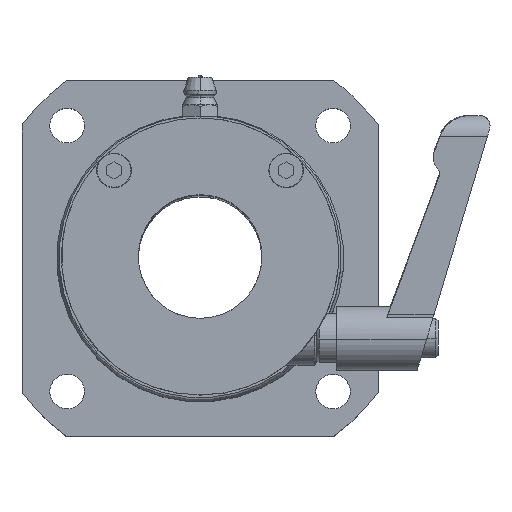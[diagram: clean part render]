
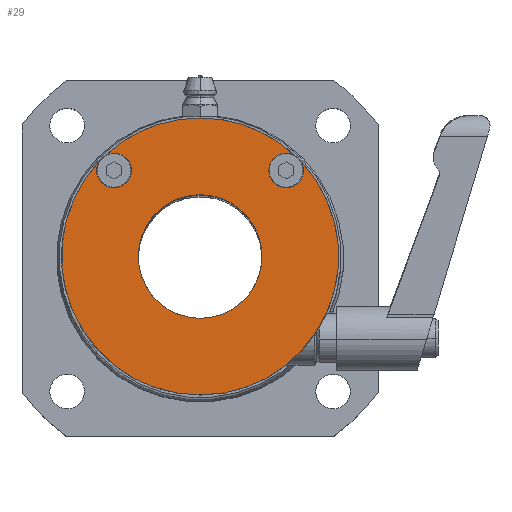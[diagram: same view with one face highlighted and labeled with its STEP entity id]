
A CAD part, top view. The second image highlights one B-rep face of the part: STEP entity #29.
In plain terms, the highlighted planar face has unit normal (0, 0, 1).
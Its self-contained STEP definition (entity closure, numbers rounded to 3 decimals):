
#29 = ADVANCED_FACE ( 'NONE', ( #5604, #9099 ), #10101, .T. ) ;
#39 = ORIENTED_EDGE ( 'NONE', *, *, #280, .F. ) ;
#91 = DIRECTION ( 'NONE',  ( 0., -1., 0. ) ) ;
#92 = CARTESIAN_POINT ( 'NONE',  ( -6.779, -0.556, 63.5 ) ) ;
#95 = VERTEX_POINT ( 'NONE', #5097 ) ;
#137 = CARTESIAN_POINT ( 'NONE',  ( -6.779, 11.944, 63.5 ) ) ;
#195 = CARTESIAN_POINT ( 'NONE',  ( -6.779, -0.556, 63.5 ) ) ;
#199 = CIRCLE ( 'NONE', #6256, 3.5 ) ;
#266 = DIRECTION ( 'NONE',  ( 0., -1., 0. ) ) ;
#280 = EDGE_CURVE ( 'NONE', #10152, #700, #10494, .T. ) ;
#329 = DIRECTION ( 'NONE',  ( 0., 0., 1. ) ) ;
#376 = CARTESIAN_POINT ( 'NONE',  ( -6.779, -28.556, 63.5 ) ) ;
#700 = VERTEX_POINT ( 'NONE', #137 ) ;
#801 = CARTESIAN_POINT ( 'NONE',  ( 10.621, 16.844, 63.5 ) ) ;
#953 = AXIS2_PLACEMENT_3D ( 'NONE', #92, #7106, #10693 ) ;
#1113 = EDGE_CURVE ( 'NONE', #700, #10152, #8620, .T. ) ;
#1164 = DIRECTION ( 'NONE',  ( 1., 0., 0. ) ) ;
#1241 = VERTEX_POINT ( 'NONE', #10385 ) ;
#1272 = ORIENTED_EDGE ( 'NONE', *, *, #10520, .F. ) ;
#1391 = DIRECTION ( 'NONE',  ( 0., -1., 0. ) ) ;
#1711 = CARTESIAN_POINT ( 'NONE',  ( -6.779, -0.556, 63.5 ) ) ;
#1732 = ORIENTED_EDGE ( 'NONE', *, *, #2513, .T. ) ;
#1781 = DIRECTION ( 'NONE',  ( 0., 0., 1. ) ) ;
#1859 = CIRCLE ( 'NONE', #953, 28. ) ;
#1927 = ORIENTED_EDGE ( 'NONE', *, *, #7575, .T. ) ;
#2103 = VERTEX_POINT ( 'NONE', #2720 ) ;
#2351 = CIRCLE ( 'NONE', #8739, 3.5 ) ;
#2418 = CIRCLE ( 'NONE', #4799, 3.5 ) ;
#2513 = EDGE_CURVE ( 'NONE', #1241, #8534, #11184, .T. ) ;
#2591 = EDGE_CURVE ( 'NONE', #2103, #3548, #3634, .T. ) ;
#2614 = DIRECTION ( 'NONE',  ( 1., 0., 0. ) ) ;
#2720 = CARTESIAN_POINT ( 'NONE',  ( 14.121, 16.844, 63.5 ) ) ;
#2829 = CARTESIAN_POINT ( 'NONE',  ( -24.179, 16.844, 63.5 ) ) ;
#2872 = CARTESIAN_POINT ( 'NONE',  ( -6.779, -0.556, 63.5 ) ) ;
#2899 = CARTESIAN_POINT ( 'NONE',  ( 7.121, 16.844, 63.5 ) ) ;
#2935 = CARTESIAN_POINT ( 'NONE',  ( -25.918, 19.881, 63.5 ) ) ;
#2979 = DIRECTION ( 'NONE',  ( 0., 0., 1. ) ) ;
#2990 = VERTEX_POINT ( 'NONE', #8247 ) ;
#3110 = AXIS2_PLACEMENT_3D ( 'NONE', #195, #5491, #5276 ) ;
#3324 = EDGE_CURVE ( 'NONE', #1241, #3469, #5305, .T. ) ;
#3437 = ORIENTED_EDGE ( 'NONE', *, *, #1113, .F. ) ;
#3469 = VERTEX_POINT ( 'NONE', #2899 ) ;
#3548 = VERTEX_POINT ( 'NONE', #10578 ) ;
#3634 = CIRCLE ( 'NONE', #10078, 3.5 ) ;
#3764 = CARTESIAN_POINT ( 'NONE',  ( 10.621, 16.844, 63.5 ) ) ;
#3828 = DIRECTION ( 'NONE',  ( 1., 0., 0. ) ) ;
#3864 = ORIENTED_EDGE ( 'NONE', *, *, #4895, .T. ) ;
#3921 = CARTESIAN_POINT ( 'NONE',  ( 10.621, 16.844, 63.5 ) ) ;
#3997 = AXIS2_PLACEMENT_3D ( 'NONE', #7667, #11207, #9239 ) ;
#4288 = ORIENTED_EDGE ( 'NONE', *, *, #5055, .T. ) ;
#4417 = DIRECTION ( 'NONE',  ( 0., 0., 1. ) ) ;
#4799 = AXIS2_PLACEMENT_3D ( 'NONE', #3921, #7438, #1164 ) ;
#4838 = ORIENTED_EDGE ( 'NONE', *, *, #3324, .F. ) ;
#4895 = EDGE_CURVE ( 'NONE', #8534, #7599, #1859, .T. ) ;
#4939 = DIRECTION ( 'NONE',  ( 0., 0., 1. ) ) ;
#4983 = EDGE_CURVE ( 'NONE', #3469, #2103, #2418, .T. ) ;
#5046 = DIRECTION ( 'NONE',  ( 0., 0., 1. ) ) ;
#5055 = EDGE_CURVE ( 'NONE', #6311, #3548, #6978, .T. ) ;
#5097 = CARTESIAN_POINT ( 'NONE',  ( -27.216, 18.583, 63.5 ) ) ;
#5276 = DIRECTION ( 'NONE',  ( 0., -1., 0. ) ) ;
#5305 = CIRCLE ( 'NONE', #9126, 3.5 ) ;
#5408 = DIRECTION ( 'NONE',  ( 0., 0., 1. ) ) ;
#5491 = DIRECTION ( 'NONE',  ( 0., 0., 1. ) ) ;
#5604 = FACE_OUTER_BOUND ( 'NONE', #7347, .T. ) ;
#5832 = DIRECTION ( 'NONE',  ( 1., 0., 0. ) ) ;
#6018 = ORIENTED_EDGE ( 'NONE', *, *, #8310, .F. ) ;
#6256 = AXIS2_PLACEMENT_3D ( 'NONE', #10473, #1781, #2614 ) ;
#6311 = VERTEX_POINT ( 'NONE', #376 ) ;
#6683 = DIRECTION ( 'NONE',  ( 0., -1., 0. ) ) ;
#6805 = AXIS2_PLACEMENT_3D ( 'NONE', #9554, #10413, #91 ) ;
#6815 = CARTESIAN_POINT ( 'NONE',  ( -6.779, -0.556, 63.5 ) ) ;
#6978 = CIRCLE ( 'NONE', #9558, 28. ) ;
#7106 = DIRECTION ( 'NONE',  ( 0., 0., 1. ) ) ;
#7214 = CARTESIAN_POINT ( 'NONE',  ( -6.779, -0.556, 63.5 ) ) ;
#7347 = EDGE_LOOP ( 'NONE', ( #1927, #4288, #8140, #10120, #4838, #1732, #3864, #8138, #1272, #6018 ) ) ;
#7438 = DIRECTION ( 'NONE',  ( 0., 0., 1. ) ) ;
#7575 = EDGE_CURVE ( 'NONE', #95, #6311, #10866, .T. ) ;
#7599 = VERTEX_POINT ( 'NONE', #2935 ) ;
#7667 = CARTESIAN_POINT ( 'NONE',  ( -24.179, 16.844, 63.5 ) ) ;
#7883 = AXIS2_PLACEMENT_3D ( 'NONE', #6815, #4939, #6683 ) ;
#8138 = ORIENTED_EDGE ( 'NONE', *, *, #10002, .F. ) ;
#8140 = ORIENTED_EDGE ( 'NONE', *, *, #2591, .F. ) ;
#8142 = DIRECTION ( 'NONE',  ( 1., 0., 0. ) ) ;
#8247 = CARTESIAN_POINT ( 'NONE',  ( -27.679, 16.844, 63.5 ) ) ;
#8253 = EDGE_LOOP ( 'NONE', ( #3437, #39 ) ) ;
#8310 = EDGE_CURVE ( 'NONE', #95, #2990, #199, .T. ) ;
#8534 = VERTEX_POINT ( 'NONE', #8865 ) ;
#8620 = CIRCLE ( 'NONE', #7883, 12.5 ) ;
#8739 = AXIS2_PLACEMENT_3D ( 'NONE', #2829, #5408, #8142 ) ;
#8865 = CARTESIAN_POINT ( 'NONE',  ( -6.779, 27.444, 63.5 ) ) ;
#9099 = FACE_BOUND ( 'NONE', #8253, .T. ) ;
#9126 = AXIS2_PLACEMENT_3D ( 'NONE', #801, #5046, #5832 ) ;
#9239 = DIRECTION ( 'NONE',  ( 1., 0., 0. ) ) ;
#9409 = DIRECTION ( 'NONE',  ( 0., -1., 0. ) ) ;
#9482 = CARTESIAN_POINT ( 'NONE',  ( -20.679, 16.844, 63.5 ) ) ;
#9554 = CARTESIAN_POINT ( 'NONE',  ( -6.779, -0.556, 63.5 ) ) ;
#9558 = AXIS2_PLACEMENT_3D ( 'NONE', #2872, #9994, #1391 ) ;
#9913 = CARTESIAN_POINT ( 'NONE',  ( -6.779, -13.056, 63.5 ) ) ;
#9994 = DIRECTION ( 'NONE',  ( 0., 0., 1. ) ) ;
#10002 = EDGE_CURVE ( 'NONE', #10697, #7599, #10581, .T. ) ;
#10078 = AXIS2_PLACEMENT_3D ( 'NONE', #3764, #2979, #3828 ) ;
#10101 = PLANE ( 'NONE',  #11322 ) ;
#10120 = ORIENTED_EDGE ( 'NONE', *, *, #4983, .F. ) ;
#10152 = VERTEX_POINT ( 'NONE', #9913 ) ;
#10385 = CARTESIAN_POINT ( 'NONE',  ( 12.361, 19.881, 63.5 ) ) ;
#10413 = DIRECTION ( 'NONE',  ( 0., 0., 1. ) ) ;
#10473 = CARTESIAN_POINT ( 'NONE',  ( -24.179, 16.844, 63.5 ) ) ;
#10494 = CIRCLE ( 'NONE', #6805, 12.5 ) ;
#10520 = EDGE_CURVE ( 'NONE', #2990, #10697, #2351, .T. ) ;
#10578 = CARTESIAN_POINT ( 'NONE',  ( 13.658, 18.583, 63.5 ) ) ;
#10581 = CIRCLE ( 'NONE', #3997, 3.5 ) ;
#10693 = DIRECTION ( 'NONE',  ( 0., -1., 0. ) ) ;
#10697 = VERTEX_POINT ( 'NONE', #9482 ) ;
#10866 = CIRCLE ( 'NONE', #11062, 28. ) ;
#11062 = AXIS2_PLACEMENT_3D ( 'NONE', #7214, #329, #266 ) ;
#11184 = CIRCLE ( 'NONE', #3110, 28. ) ;
#11207 = DIRECTION ( 'NONE',  ( 0., 0., 1. ) ) ;
#11322 = AXIS2_PLACEMENT_3D ( 'NONE', #1711, #4417, #9409 ) ;
